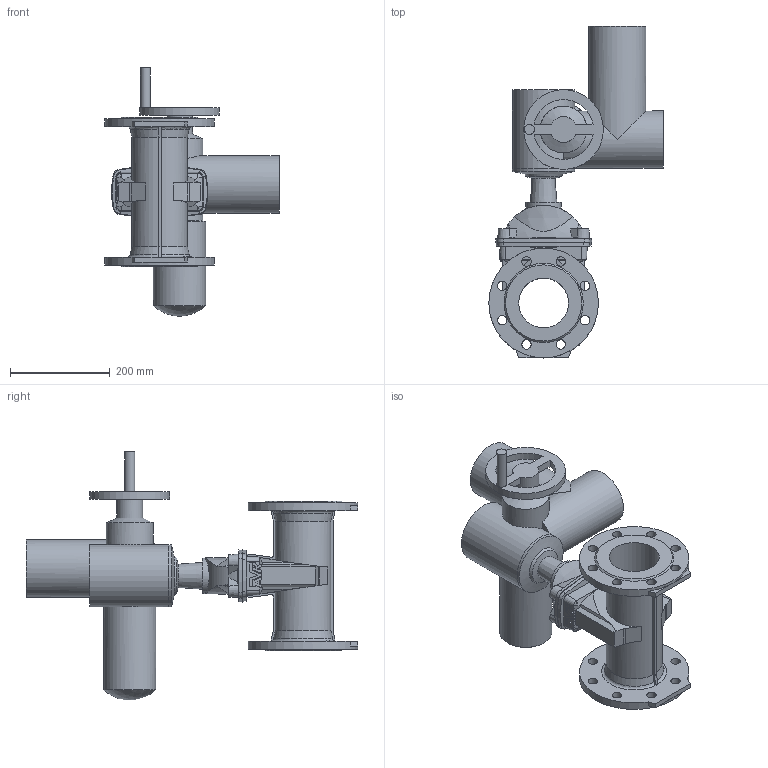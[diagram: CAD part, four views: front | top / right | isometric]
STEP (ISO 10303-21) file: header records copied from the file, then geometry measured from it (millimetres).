
FILE_DESCRIPTION (( 'STEP AP203' ), '1' );
FILE_NAME ('O_15_72_DN100_X1XXX099_SA07.6_AA0.step', '2017-03-20T12:47:18', ( 'Windows User' ), ( 'AVK' ), 'SwSTEP 2.0', 'SolidWorks 2012', '' );
FILE_SCHEMA (( 'CONFIG_CONTROL_DESIGN' ));
Length unit declared in the file: inch
Products named in the file (1): O_15_72_DN100_X1XXX099_SA07.6_AA0
Bounding box: 350 x 666.2 x 498.55 mm (x, y, z)
Volume: 11636755.5 mm3; surface area: 817750.9 mm2
Topology: 1 solids, 1 shells, 331 faces, 943 edges, 622 vertices
Faces by surface type: plane 145, cylinder 91, cone 90, sphere 3, torus 2
Full cylindrical faces by diameter (mm): 19 x16, 20 x1, 22 x1, 52.112 x1, 71 x1, 93.905 x1, 100 x1, 105 x1, 115 x2, 125 x2, 160 x1, 220 x2
Entity records: 11629 total; most frequent: CARTESIAN_POINT 3225, ORIENTED_EDGE 1732, DIRECTION 1710, EDGE_CURVE 866, AXIS2_PLACEMENT_3D 627, VERTEX_POINT 590, LINE 456, VECTOR 456
